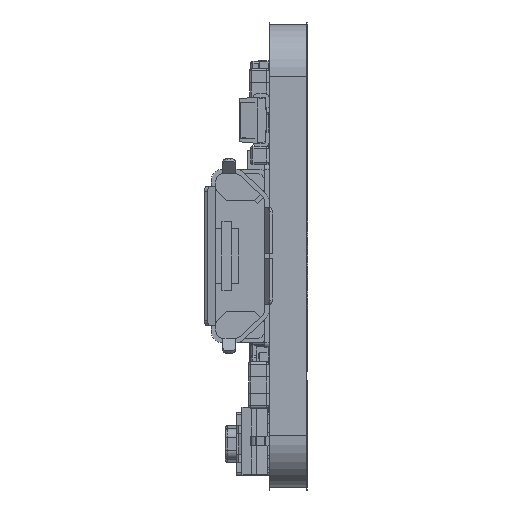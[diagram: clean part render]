
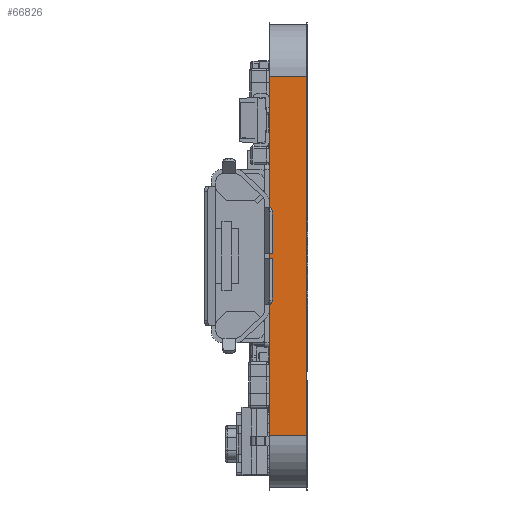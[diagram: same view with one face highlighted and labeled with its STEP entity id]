
A CAD part, left-side view. The second image highlights one B-rep face of the part: STEP entity #66826.
In plain terms, the highlighted planar face has unit normal (-1, 0, 0).
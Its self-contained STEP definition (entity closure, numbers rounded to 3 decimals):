
#6994 = EDGE_LOOP ( 'NONE', ( #84440, #84441, #84442, #84443, #84444, #84445, #84446, #84447, #84448, #84449 ) ) ;
#61716 = EDGE_CURVE ( 'NONE', #80314, #80317, #117393, .T. ) ;
#61731 = EDGE_CURVE ( 'NONE', #80325, #80328, #117408, .T. ) ;
#66826 = ADVANCED_FACE ( 'NONE', ( #194659 ), #195727, .T. ) ;
#71974 = EDGE_CURVE ( 'NONE', #80481, #80478, #87692, .T. ) ;
#72535 = EDGE_CURVE ( 'NONE', #80742, #80736, #88696, .T. ) ;
#72542 = EDGE_CURVE ( 'NONE', #80746, #80314, #88708, .T. ) ;
#72544 = EDGE_CURVE ( 'NONE', #80748, #80746, #88712, .T. ) ;
#72546 = EDGE_CURVE ( 'NONE', #80748, #80481, #88715, .T. ) ;
#72548 = EDGE_CURVE ( 'NONE', #80478, #80742, #88719, .T. ) ;
#72550 = EDGE_CURVE ( 'NONE', #80736, #80328, #88723, .T. ) ;
#72552 = EDGE_CURVE ( 'NONE', #80317, #80325, #88726, .T. ) ;
#80314 = VERTEX_POINT ( 'NONE', #113732 ) ;
#80317 = VERTEX_POINT ( 'NONE', #113734 ) ;
#80325 = VERTEX_POINT ( 'NONE', #113739 ) ;
#80328 = VERTEX_POINT ( 'NONE', #113741 ) ;
#80478 = VERTEX_POINT ( 'NONE', #113851 ) ;
#80481 = VERTEX_POINT ( 'NONE', #113853 ) ;
#80736 = VERTEX_POINT ( 'NONE', #114032 ) ;
#80742 = VERTEX_POINT ( 'NONE', #114035 ) ;
#80746 = VERTEX_POINT ( 'NONE', #114038 ) ;
#80748 = VERTEX_POINT ( 'NONE', #114040 ) ;
#84440 = ORIENTED_EDGE ( 'NONE', *, *, #72542, .F. ) ;
#84441 = ORIENTED_EDGE ( 'NONE', *, *, #72544, .F. ) ;
#84442 = ORIENTED_EDGE ( 'NONE', *, *, #72546, .T. ) ;
#84443 = ORIENTED_EDGE ( 'NONE', *, *, #71974, .T. ) ;
#84444 = ORIENTED_EDGE ( 'NONE', *, *, #72548, .T. ) ;
#84445 = ORIENTED_EDGE ( 'NONE', *, *, #72535, .T. ) ;
#84446 = ORIENTED_EDGE ( 'NONE', *, *, #72550, .T. ) ;
#84447 = ORIENTED_EDGE ( 'NONE', *, *, #61731, .F. ) ;
#84448 = ORIENTED_EDGE ( 'NONE', *, *, #72552, .F. ) ;
#84449 = ORIENTED_EDGE ( 'NONE', *, *, #61716, .F. ) ;
#86165 = CARTESIAN_POINT ( 'NONE',  ( 100., -1.6, -102.25 ) ) ;
#86167 = DIRECTION ( 'NONE',  ( 0., 0., 1. ) ) ;
#87692 = LINE ( 'NONE', #86165, #87696 ) ;
#87696 = VECTOR ( 'NONE', #86167, 1000. ) ;
#88696 = LINE ( 'NONE', #98303, #88700 ) ;
#88700 = VECTOR ( 'NONE', #98306, 1000. ) ;
#88708 = LINE ( 'NONE', #98333, #88710 ) ;
#88710 = VECTOR ( 'NONE', #98337, 1000. ) ;
#88712 = LINE ( 'NONE', #98343, #88713 ) ;
#88713 = VECTOR ( 'NONE', #98346, 1000. ) ;
#88715 = LINE ( 'NONE', #98352, #88717 ) ;
#88717 = VECTOR ( 'NONE', #98356, 1000. ) ;
#88719 = LINE ( 'NONE', #98362, #88721 ) ;
#88721 = VECTOR ( 'NONE', #98365, 1000. ) ;
#88723 = LINE ( 'NONE', #98370, #88725 ) ;
#88725 = VECTOR ( 'NONE', #98374, 1000. ) ;
#88726 = LINE ( 'NONE', #98379, #88728 ) ;
#88728 = VECTOR ( 'NONE', #98382, 1000. ) ;
#98303 = CARTESIAN_POINT ( 'NONE',  ( 100., -1.6, -102.25 ) ) ;
#98306 = DIRECTION ( 'NONE',  ( 0., 1., 0. ) ) ;
#98333 = CARTESIAN_POINT ( 'NONE',  ( 100., 0., -102.25 ) ) ;
#98337 = DIRECTION ( 'NONE',  ( 0., 0., 1. ) ) ;
#98343 = CARTESIAN_POINT ( 'NONE',  ( 100., -1.6, -117.75 ) ) ;
#98346 = DIRECTION ( 'NONE',  ( 0., 1., 0. ) ) ;
#98352 = CARTESIAN_POINT ( 'NONE',  ( 100., -1.6, -102.25 ) ) ;
#98356 = DIRECTION ( 'NONE',  ( 0., 0., 1. ) ) ;
#98362 = CARTESIAN_POINT ( 'NONE',  ( 100., -1.6, -102.25 ) ) ;
#98365 = DIRECTION ( 'NONE',  ( 0., 0., 1. ) ) ;
#98370 = CARTESIAN_POINT ( 'NONE',  ( 100., 0., -102.25 ) ) ;
#98374 = DIRECTION ( 'NONE',  ( 0., 0., -1. ) ) ;
#98379 = CARTESIAN_POINT ( 'NONE',  ( 100., 0., -102.25 ) ) ;
#98382 = DIRECTION ( 'NONE',  ( 0., 0., 1. ) ) ;
#113732 = CARTESIAN_POINT ( 'NONE',  ( 100., 0., -117.071 ) ) ;
#113734 = CARTESIAN_POINT ( 'NONE',  ( 100., 0., -113.862 ) ) ;
#113739 = CARTESIAN_POINT ( 'NONE',  ( 100., 0., -106.163 ) ) ;
#113741 = CARTESIAN_POINT ( 'NONE',  ( 100., 0., -102.929 ) ) ;
#113851 = CARTESIAN_POINT ( 'NONE',  ( 100., -1.6, -102.929 ) ) ;
#113853 = CARTESIAN_POINT ( 'NONE',  ( 100., -1.6, -117.071 ) ) ;
#114032 = CARTESIAN_POINT ( 'NONE',  ( 100., 0., -102.25 ) ) ;
#114035 = CARTESIAN_POINT ( 'NONE',  ( 100., -1.6, -102.25 ) ) ;
#114038 = CARTESIAN_POINT ( 'NONE',  ( 100., 0., -117.75 ) ) ;
#114040 = CARTESIAN_POINT ( 'NONE',  ( 100., -1.6, -117.75 ) ) ;
#115141 = CARTESIAN_POINT ( 'NONE',  ( 100., 0., -102.25 ) ) ;
#115143 = DIRECTION ( 'NONE',  ( 0., 0., 1. ) ) ;
#115167 = CARTESIAN_POINT ( 'NONE',  ( 100., 0., -102.25 ) ) ;
#115169 = DIRECTION ( 'NONE',  ( 0., 0., 1. ) ) ;
#117393 = LINE ( 'NONE', #115141, #117397 ) ;
#117397 = VECTOR ( 'NONE', #115143, 1000. ) ;
#117408 = LINE ( 'NONE', #115167, #117413 ) ;
#117413 = VECTOR ( 'NONE', #115169, 1000. ) ;
#136346 = AXIS2_PLACEMENT_3D ( 'NONE', #195729, #195731, #195733 ) ;
#194659 = FACE_OUTER_BOUND ( 'NONE', #6994, .T. ) ;
#195727 = PLANE ( 'NONE',  #136346 ) ;
#195729 = CARTESIAN_POINT ( 'NONE',  ( 100., -1.6, -102.25 ) ) ;
#195731 = DIRECTION ( 'NONE',  ( -1., 0., 0. ) ) ;
#195733 = DIRECTION ( 'NONE',  ( 0., 0., 1. ) ) ;
